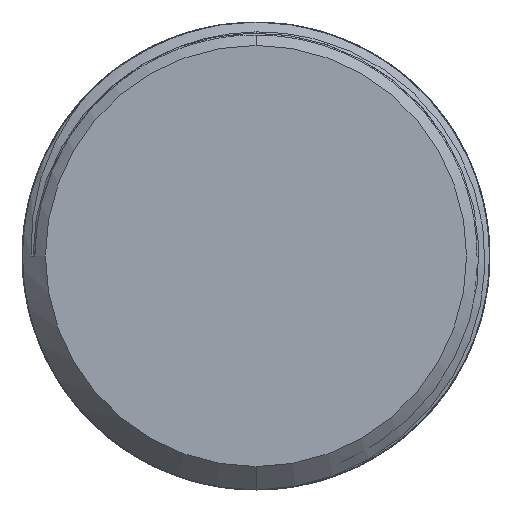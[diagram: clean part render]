
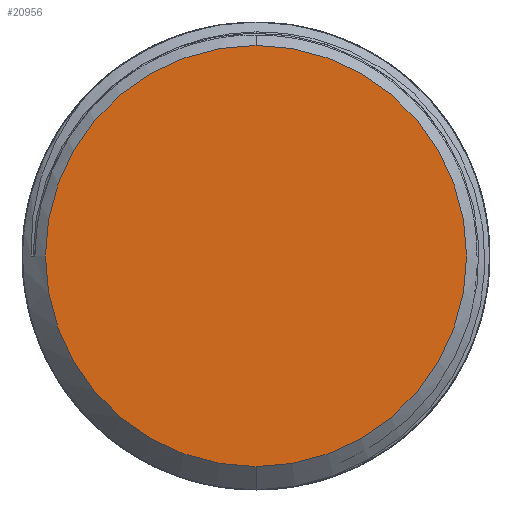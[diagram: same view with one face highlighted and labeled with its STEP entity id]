
A CAD part, left-side view. The second image highlights one B-rep face of the part: STEP entity #20956.
In plain terms, the highlighted planar face has unit normal (-1, 0, 0).
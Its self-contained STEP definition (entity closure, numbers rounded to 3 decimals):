
#8022=CARTESIAN_POINT('',(0.,0.,0.));
#8023=DIRECTION('',(-1.,0.,0.));
#8024=DIRECTION('',(0.,0.,-1.));
#8025=AXIS2_PLACEMENT_3D('',#8022,#8023,#8024);
#8027=CARTESIAN_POINT('',(0.,0.,0.));
#8028=DIRECTION('',(-1.,0.,0.));
#8029=DIRECTION('',(0.,0.,1.));
#8030=AXIS2_PLACEMENT_3D('',#8027,#8028,#8029);
#9671=CARTESIAN_POINT('',(0.,0.,-5.4));
#9672=CARTESIAN_POINT('',(0.,0.,5.4));
#9673=VERTEX_POINT('',#9671);
#9674=VERTEX_POINT('',#9672);
#20947=CARTESIAN_POINT('',(0.,0.,0.));
#20948=DIRECTION('',(1.,0.,0.));
#20949=DIRECTION('',(0.,0.,1.));
#20950=AXIS2_PLACEMENT_3D('',#20947,#20948,#20949);
#20951=PLANE('',#20950);
#20952=ORIENTED_EDGE('',*,*,#20940,.F.);
#20953=ORIENTED_EDGE('',*,*,#12152,.F.);
#20954=EDGE_LOOP('',(#20952,#20953));
#20955=FACE_OUTER_BOUND('',#20954,.F.);
#20956=ADVANCED_FACE('',(#20955),#20951,.F.);
#8026=CIRCLE('',#8025,5.4);
#8031=CIRCLE('',#8030,5.4);
#12152=EDGE_CURVE('',#9674,#9673,#8031,.T.);
#20940=EDGE_CURVE('',#9673,#9674,#8026,.T.);
